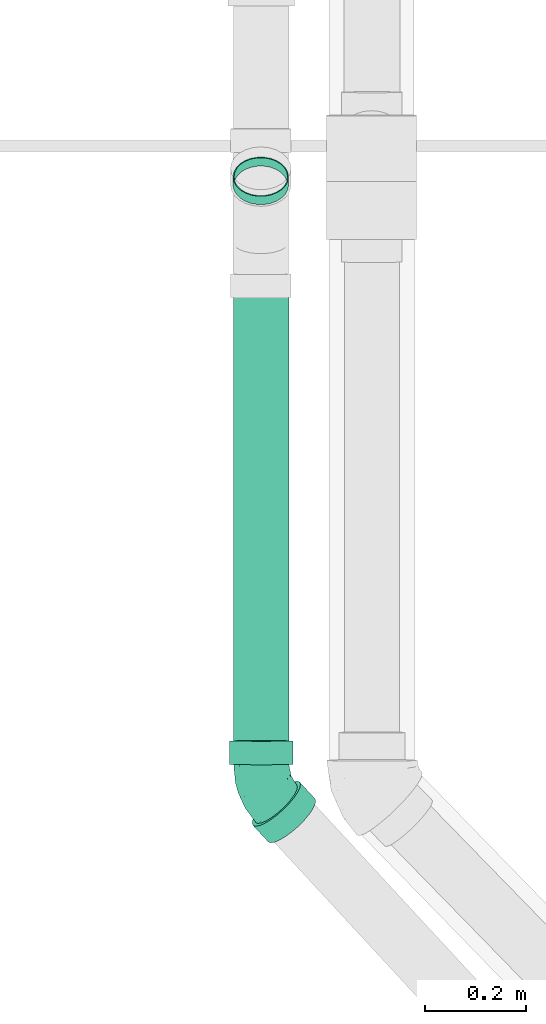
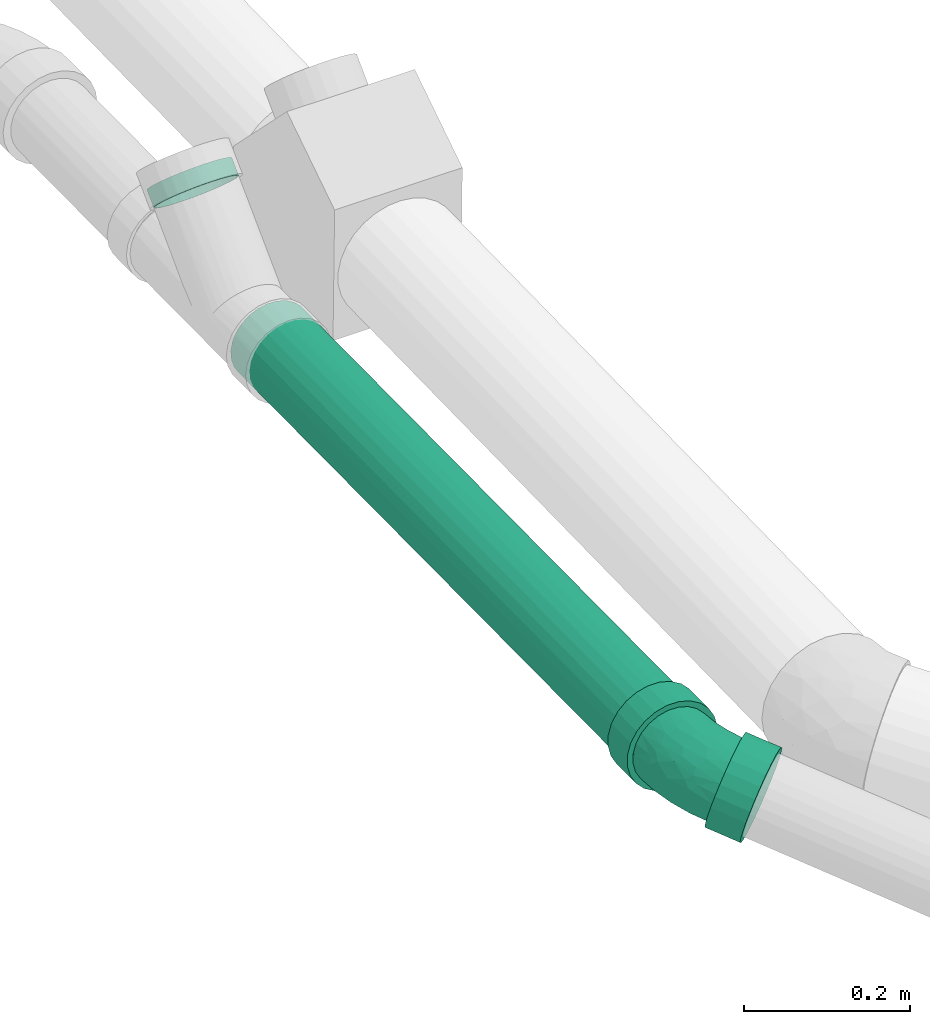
# One storey, part 32 of 78: 2 flow segments, 1 flow fitting.
"""IFC2X3 building model written with IfcOpenShell, lengths in millimetres."""

import ifcopenshell
import ifcopenshell.guid

model = None  # the IFC model being written
_history = None  # IfcOwnerHistory: only IFC2X3 demands one
_inside = {}  # id of a spatial element -> (the spatial element, [elements in it])
_under = {}  # id of a project, library or spatial element -> (it, [spatial elements below it])
_declared = {}  # id of a project -> (the project, [libraries it declares])
_typed = {}  # id of a type object -> (the type object, [elements of that type])
_made_of = {}  # id of a material, layer set ... -> (it, [elements and type objects made of it])


def new_model(schema):
    """Start an empty IFC model of exactly this schema.

    Asked for "IFC4X3", IfcOpenShell would pick the latest addendum, in which some entities
    have other attributes; the version numbers below select the first issue.
    IFC2X3 requires an IfcOwnerHistory on every rooted entity: one is made here for all.
    """
    global model, _history
    if schema == "IFC4X3":
        model = ifcopenshell.file(schema_version=(4, 3, 0, 0))
    else:
        model = ifcopenshell.file(schema=schema)
    _inside.clear()
    _under.clear()
    _declared.clear()
    _typed.clear()
    _made_of.clear()
    _history = None
    if model.schema == "IFC2X3":
        org = make("IfcOrganization", Name="unknown")
        user = make(
            "IfcPersonAndOrganization",
            ThePerson=make("IfcPerson", FamilyName="unknown"),
            TheOrganization=org,
        )
        app = make(
            "IfcApplication",
            ApplicationDeveloper=org,
            Version="unknown",
            ApplicationFullName="unknown",
            ApplicationIdentifier="unknown",
        )
        _history = make(
            "IfcOwnerHistory",
            OwningUser=user,
            OwningApplication=app,
            ChangeAction="ADDED",
            CreationDate=0,
        )
    return model


def make(cls, **values):
    """One entity of the class cls with the attributes given. An attribute that is None is left unset."""
    return model.create_entity(
        cls, **{name: value for name, value in values.items() if value is not None}
    )


def entity(cls, *values):
    """Any entity or typed value of the class cls, its attributes in the order of the schema. None: left unset."""
    e = model.create_entity(cls)
    for i, value in enumerate(values):
        if value is not None:
            e[i] = value
    return e


def rooted(cls, **values):
    """An entity with a GlobalId (a new one), such as an element, a storey or a relation."""
    return make(cls, GlobalId=ifcopenshell.guid.new(), OwnerHistory=_history, **values)


def si_unit(unit_type, name, prefix=None):
    """IfcSIUnit, for example si_unit("LENGTHUNIT", "METRE", prefix="MILLI")."""
    return make("IfcSIUnit", UnitType=unit_type, Prefix=prefix, Name=name)


def converted_unit(unit_type, name, factor, base, dimensions=None, offset=None):
    """IfcConversionBasedUnit, such as the inch: factor (a typed value) times the base unit."""
    return make(
        "IfcConversionBasedUnit"
        if offset is None
        else "IfcConversionBasedUnitWithOffset",
        ConversionOffset=offset,
        Dimensions=None
        if dimensions is None
        else entity("IfcDimensionalExponents", *dimensions),
        UnitType=unit_type,
        Name=name,
        ConversionFactor=make(
            "IfcMeasureWithUnit", ValueComponent=factor, UnitComponent=base
        ),
    )


def derived_unit(unit_type, elements):
    """IfcDerivedUnit: a product of units, each with its exponent."""
    return make(
        "IfcDerivedUnit",
        Elements=[
            make("IfcDerivedUnitElement", Unit=unit, Exponent=power)
            for unit, power in elements
        ],
        UnitType=unit_type,
    )


def assignment(units):
    """IfcUnitAssignment: the units of a project."""
    return None if units is None else make("IfcUnitAssignment", Units=units)


def point(xyz):
    """IfcCartesianPoint."""
    return None if xyz is None else make("IfcCartesianPoint", Coordinates=xyz)


def direction(xyz):
    """IfcDirection."""
    return None if xyz is None else make("IfcDirection", DirectionRatios=xyz)


def frame(location, z_axis=None, x_axis=None):
    """IfcAxis2Placement3D, a coordinate frame: its origin and axes. An axis left out is left unset."""
    return make(
        "IfcAxis2Placement3D",
        Location=point(location),
        Axis=direction(z_axis),
        RefDirection=direction(x_axis),
    )


def frame_2d(location, x_axis=None):
    """IfcAxis2Placement2D, a coordinate frame in the plane: its origin and x axis."""
    return make(
        "IfcAxis2Placement2D", Location=point(location), RefDirection=direction(x_axis)
    )


def origin_with_axes():
    """The frame at (0, 0, 0) with the z axis (0, 0, 1) and the x axis (1, 0, 0) written out."""
    return frame((0.0, 0.0, 0.0), z_axis=(0.0, 0.0, 1.0), x_axis=(1.0, 0.0, 0.0))


def origin_2d_with_axis():
    """The frame at (0, 0) in the plane with the x axis (1, 0) written out."""
    return frame_2d((0.0, 0.0), x_axis=(1.0, 0.0))


def place(relative_to, where):
    """IfcLocalPlacement: puts the frame where relative to a parent placement (None: the world)."""
    return make(
        "IfcLocalPlacement", PlacementRelTo=relative_to, RelativePlacement=where
    )


def context(
    kind, dimensions, precision=None, world=None, true_north=None, identifier=None
):
    """IfcGeometricRepresentationContext, for example the 3D "Model" context."""
    return make(
        "IfcGeometricRepresentationContext",
        ContextIdentifier=identifier,
        ContextType=kind,
        CoordinateSpaceDimension=dimensions,
        Precision=precision,
        WorldCoordinateSystem=world,
        TrueNorth=true_north,
    )


def subcontext(parent, identifier, kind, view, scale=None):
    """IfcGeometricRepresentationSubContext, for example "Body" below "Model"."""
    return make(
        "IfcGeometricRepresentationSubContext",
        ContextIdentifier=identifier,
        ContextType=kind,
        ParentContext=parent,
        TargetScale=scale,
        TargetView=view,
    )


def project(units=None, contexts=None):
    """IfcProject with its units and contexts."""
    return rooted(
        "IfcProject",
        Name="project",
        RepresentationContexts=contexts,
        UnitsInContext=assignment(units),
    )


def spatial(cls, under=None, at=None, **own):
    """A site, building, storey or space (cls), placed at a placement, below another one or the project."""
    s = rooted(cls, ObjectPlacement=at, **own)
    if under is not None:
        _under.setdefault(under.id(), (under, []))[1].append(s)
    return s


def profile(cls, at=None, kind="AREA", **sizes):
    """A parametric profile (cls). Its sizes go by their IFC names, for example OverallWidth=200.0."""
    return make(cls, ProfileType=kind, Position=at, **sizes)


def hollow_circle(**sizes):
    """IfcCircleHollowProfileDef."""
    return profile("IfcCircleHollowProfileDef", **sizes)


def extrude(swept, where, along, depth):
    """IfcExtrudedAreaSolid: the profile swept, set in the frame where, extruded along a direction by depth."""
    return make(
        "IfcExtrudedAreaSolid",
        SweptArea=swept,
        Position=where,
        ExtrudedDirection=direction(along),
        Depth=depth,
    )


def faces_of(points, faces, orient=None, outer=None):
    """IfcFace entities. A face is a list of loops; a loop is a list of indices into points, from 0.

    orient and outer hold one flag for each loop. By default every Orientation is true, the
    first loop of a face is its IfcFaceOuterBound and the others are IfcFaceBound.
    """
    made = []
    for i, loops in enumerate(faces):
        bounds = []
        for j, loop in enumerate(loops):
            is_outer = j == 0 if outer is None else outer[i][j]
            bounds.append(
                make(
                    "IfcFaceOuterBound" if is_outer else "IfcFaceBound",
                    Bound=make("IfcPolyLoop", Polygon=[points[k] for k in loop]),
                    Orientation=True if orient is None else orient[i][j],
                )
            )
        made.append(make("IfcFace", Bounds=bounds))
    return made


def open_shell(faces, orient=None, outer=None):
    """The faces of one IfcOpenShell. surface_model builds it on its shared points."""
    return ("IfcOpenShell", faces, orient, outer)


def surface_model(cls, points, shells):
    """IfcFaceBasedSurfaceModel or IfcShellBasedSurfaceModel (cls): surfaces that need not close."""
    shared = [point(p) for p in points]
    made = [make(c, CfsFaces=faces_of(shared, fs, o, b)) for c, fs, o, b in shells]
    if cls == "IfcFaceBasedSurfaceModel":
        return make(cls, FbsmFaces=made)
    return make(cls, SbsmBoundary=made)


def shape(context_of_items, identifier, shape_type, items):
    """IfcShapeRepresentation: the items that make up one representation, for example the "Body"."""
    return make(
        "IfcShapeRepresentation",
        ContextOfItems=context_of_items,
        RepresentationIdentifier=identifier,
        RepresentationType=shape_type,
        Items=items,
    )


def source(mapping_origin, context_of_items, identifier, shape_type, items):
    """IfcRepresentationMap: a shape defined once, which mapped items show again and again."""
    return make(
        "IfcRepresentationMap",
        MappingOrigin=mapping_origin,
        MappedRepresentation=shape(context_of_items, identifier, shape_type, items),
    )


def transform(
    local_origin,
    x_axis=None,
    y_axis=None,
    z_axis=None,
    scale=None,
    scale2=None,
    scale3=None,
    uniform=True,
):
    """IfcCartesianTransformationOperator3D, or its non-uniform kind. x_axis, y_axis, z_axis: its Axis1, 2, 3."""
    if uniform:
        return make(
            "IfcCartesianTransformationOperator3D",
            Axis1=direction(x_axis),
            Axis2=direction(y_axis),
            LocalOrigin=point(local_origin),
            Scale=scale,
            Axis3=direction(z_axis),
        )
    return make(
        "IfcCartesianTransformationOperator3DnonUniform",
        Axis1=direction(x_axis),
        Axis2=direction(y_axis),
        LocalOrigin=point(local_origin),
        Scale=scale,
        Axis3=direction(z_axis),
        Scale2=scale2,
        Scale3=scale3,
    )


def mapped(mapping_source, mapping_target):
    """IfcMappedItem: shows the shape of a source again, moved by a transform."""
    return make(
        "IfcMappedItem", MappingSource=mapping_source, MappingTarget=mapping_target
    )


def made_of(thing, what):
    """Note that an element or type object is made of a material, layer set ...; save() writes the relation."""
    if what is not None:
        _made_of.setdefault(what.id(), (what, []))[1].append(thing)
    return thing


def type_object(cls, material=None, **own):
    """A type object (cls), such as IfcWallType, which elements share."""
    return made_of(rooted(cls, **own), material)


def element(
    cls,
    number,
    at=None,
    inside=None,
    cuts=None,
    type_object=None,
    material=None,
    context=None,
    identifier="Body",
    shape_type=None,
    held_by="IfcProductDefinitionShape",
    body=None,
    shapes=None,
    **own,
):
    """One element of the class cls, such as IfcWall. Its Tag is "e" and its number.

    at: its placement. inside: the storey or other place that contains it. cuts: it is an
    opening in that element (IfcRelVoidsElement). A single representation is given by context,
    identifier, shape_type and body (its items); several are given by shapes. held_by: the class
    of the entity that holds the representations. save() writes the other relations.
    """
    e = rooted(cls, Tag="e%d" % number, ObjectPlacement=at, **own)
    if body is not None:
        shapes = [shape(context, identifier, shape_type, body)]
    if shapes is not None:
        e.Representation = make(held_by, Representations=shapes)
    if inside is not None:
        _inside.setdefault(inside.id(), (inside, []))[1].append(e)
    if cuts is not None:
        rooted(
            "IfcRelVoidsElement", RelatingBuildingElement=cuts, RelatedOpeningElement=e
        )
    if type_object is not None:
        _typed.setdefault(type_object.id(), (type_object, []))[1].append(e)
    return made_of(e, material)


def aggregate(whole, parts):
    """IfcRelAggregates: a whole, such as a stair, and the parts it consists of."""
    return rooted("IfcRelAggregates", RelatingObject=whole, RelatedObjects=parts)


def save(model, path):
    """Write the relations noted so far, then the file.

    IfcRelAggregates (storeys below a building ...), IfcRelContainedInSpatialStructure (elements
    in a storey), IfcRelDefinesByType, IfcRelAssociatesMaterial and IfcRelDeclares: one each for
    every whole, place, type object, material and project.
    """
    for whole, parts in _under.values():
        aggregate(whole, parts)
    for where, things in _inside.values():
        rooted(
            "IfcRelContainedInSpatialStructure",
            RelatedElements=things,
            RelatingStructure=where,
        )
    for kind, things in _typed.values():
        rooted("IfcRelDefinesByType", RelatedObjects=things, RelatingType=kind)
    for what, things in _made_of.values():
        rooted("IfcRelAssociatesMaterial", RelatedObjects=things, RelatingMaterial=what)
    for by, libraries in _declared.values():
        rooted("IfcRelDeclares", RelatingContext=by, RelatedDefinitions=libraries)
    model.write(path)


model = new_model("IFC2X3")

# Units and contexts
model_context = context("Model", 3, precision=0.01, world=frame((0.0, 4.29681676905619e-09, 0.0)), true_north=direction((4.01073788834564e-13, 1.0)))
plan_context = context("Plan", 3, precision=0.01, world=frame((0.0, 4.29681676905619e-09, 0.0)), true_north=direction((4.01073788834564e-13, 1.0)))
body_context = subcontext(model_context, "Body", "Model", "MODEL_VIEW")
ifc_project = project(units=[converted_unit("PLANEANGLEUNIT", "DEGREE", entity("IfcPositiveLengthMeasure", 0.0174532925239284), si_unit("PLANEANGLEUNIT", "RADIAN"), dimensions=[0, 0, 0, 0, 0, 0, 0]), si_unit("AREAUNIT", "SQUARE_METRE"), si_unit("LENGTHUNIT", "METRE", prefix="MILLI"), si_unit("MASSUNIT", "GRAM", prefix="KILO"), si_unit("POWERUNIT", "WATT"), si_unit("PRESSUREUNIT", "PASCAL"), si_unit("FORCEUNIT", "NEWTON", prefix="KILO"), si_unit("ELECTRICVOLTAGEUNIT", "VOLT"), si_unit("ELECTRICCURRENTUNIT", "AMPERE"), si_unit("THERMODYNAMICTEMPERATUREUNIT", "DEGREE_CELSIUS"), si_unit("TIMEUNIT", "SECOND"), si_unit("VOLUMEUNIT", "CUBIC_METRE"), derived_unit("LINEARVELOCITYUNIT", [(si_unit("LENGTHUNIT", "METRE"), 1), (si_unit("TIMEUNIT", "SECOND"), -1)]), derived_unit("VOLUMETRICFLOWRATEUNIT", [(si_unit("VOLUMEUNIT", "CUBIC_METRE"), 1), (si_unit("TIMEUNIT", "SECOND"), -1)]), derived_unit("THERMALTRANSMITTANCEUNIT", [(si_unit("POWERUNIT", "WATT"), 1), (si_unit("THERMODYNAMICTEMPERATUREUNIT", "KELVIN"), -1), (si_unit("AREAUNIT", "SQUARE_METRE"), -1)]), derived_unit("SOUNDPRESSUREUNIT", [(si_unit("PRESSUREUNIT", "PASCAL"), 1)])], contexts=[model_context, plan_context])

# Site, building, storey
site_placement = place(None, frame((0.0, -4.29681676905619e-09, 0.0), z_axis=(0.0, 0.0, 1.0), x_axis=(1.0, 0.0, 0.0)))
site = spatial("IfcSite", under=ifc_project, at=site_placement, Name="ENGM", CompositionType="ELEMENT")
building_placement = place(site_placement, frame((0.0, 4.29681676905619e-09, 0.0), z_axis=(0.0, 0.0, 1.0), x_axis=(1.0, 0.0, 0.0)))
building = spatial("IfcBuilding", under=site, at=building_placement, Name="TH", CompositionType="ELEMENT")
storey_placement = place(building_placement, frame((0.0, 0.0, 205200.0), z_axis=(0.0, 0.0, 1.0), x_axis=(1.0, 0.0, 0.0)))
storey = spatial("IfcBuildingStorey", under=building, at=storey_placement, Name="Nivå D + 1,2 m", CompositionType="ELEMENT", Elevation=205200.0)

# Flow fitting
pipe_fitting_type = type_object("IfcPipeFittingType", Name="magi_sewer_bend_NOR", PredefinedType="BEND")
shared_shape_1 = source(origin_with_axes(), body_context, "Body", "SurfaceModel", [
    surface_model("IfcShellBasedSurfaceModel", [(-45.56349, 27.5, -47.63139), (-45.56349, 14.23505, -53.12592), (-45.56349, 0.0, -55.0), (-45.56349, 53.12592, -14.23505), (-45.56349, 47.63139, -27.5), (-45.56349, 38.89087, -38.89087), (-45.56349, -14.23505, -53.12592), (-45.56349, -27.5, -47.63139), (-45.56349, -38.89087, -38.89087), (-45.56349, -47.63139, -27.5), (-45.56349, -53.12592, -14.23505), (-45.56349, 27.5, 47.63139), (-45.56349, 38.89087, 38.89087), (-45.56349, 0.0, 55.0), (-45.56349, 47.63139, 27.5), (-45.56349, 14.23505, 53.12592), (-45.56349, -38.89087, 38.89087), (-45.56349, -27.5, 47.63139), (-45.56349, -47.63139, 27.5), (-45.56349, -14.23505, 53.12592), (-45.56349, 55.0, 0.0), (-45.56349, 53.12592, 14.23505), (32.21825, 32.21825, -55.0), (22.15256, 42.28395, -53.12592), (12.77282, 51.66369, -47.63139), (-1.46223, 65.89874, -27.5), (4.71825, 59.71825, -38.89087), (4.71825, 59.71825, 38.89087), (-5.34744, 69.78395, 14.23505), (-1.46223, 65.89874, 27.5), (12.77282, 51.66369, 47.63139), (22.15256, 42.28395, 53.12592), (32.21825, 32.21825, 55.0), (51.66369, 12.77282, 47.63139), (42.28395, 22.15255, 53.12592), (14.00816, -33.8187, 30.64983), (-12.1679, -31.08474, 42.44015), (-17.76016, -42.06458, 32.20462), (-18.37655, -51.42077, 0.0), (-2.85835, -49.37776, 0.0), (-11.7394, -50.6705, 9.39178), (65.89874, -1.46223, 27.5), (59.71825, 4.71825, 38.89087), (42.30248, -17.18582, 32.20462), (-21.79307, -20.16804, 50.26718), (5.64727, -13.63371, 49.57419), (1.63253, 33.06484, 51.33467), (9.94272, 26.03453, 54.20004), (-16.41504, -5.29554, 54.27135), (-5.23125, 12.62935, 54.80673), (-27.55752, 7.62142, 54.66623), (-15.62286, 37.71692, 44.9023), (-24.25485, 46.12561, 34.7087), (29.67099, 1.14907, 50.26718), (-21.13274, 22.887, 51.41725), (-45.56349, -53.12592, 14.23505), (21.22552, -35.99679, 21.67592), (-9.86168, -47.58333, 19.10009), (17.0761, -41.22536, 11.95428), (-22.65753, 54.70011, 22.59637), (69.78395, -5.34745, 14.23505), (44.13046, -27.52845, 9.39178), (49.35416, -23.36579, 0.0), (-22.02994, 58.93405, 11.55615), (40.61976, -26.67324, 19.10009), (15.3517, 7.86267, 54.27135), (30.58423, -13.37623, 42.44015), (-24.5159, 59.18663, 0.0), (-6.67262, 71.10913, 0.0), (9.23164, -22.28715, 43.85945), (-45.56349, -55.0, 0.0), (17.03908, -41.13598, 0.0), (36.93651, -32.89419, 0.0), (71.10913, -6.67262, 0.0), (-16.41504, -5.29554, -54.27135), (-11.7394, -50.6705, -9.39178), (17.0761, -41.22536, -11.95428), (42.28395, 22.15255, -53.12592), (15.3517, 7.86267, -54.27135), (-24.53474, 22.22599, -51.33467), (-25.43976, 11.37863, -54.20004), (-15.46497, 49.7665, -34.7087), (51.66369, 12.77282, -47.63139), (59.71825, 4.71825, -38.89087), (30.58423, -13.37623, -42.44015), (-22.65753, 54.70011, -22.59637), (65.89874, -1.46223, -27.5), (69.78395, -5.34745, -14.23505), (40.61976, -26.67324, -19.10009), (-26.09515, 57.25018, -11.55615), (-1.24046, 31.12666, -51.41725), (-9.86168, -47.58333, -19.10009), (-15.62286, 37.71692, -44.9023), (-17.76016, -42.06458, -32.20462), (-12.1679, -31.08474, -42.44015), (9.23164, -22.28715, -43.85945), (14.00816, -33.8187, -30.64983), (-21.79307, -20.16804, -50.26718), (29.67099, 1.14907, -50.26718), (-5.34744, 69.78395, -14.23505), (5.64727, -13.63371, -49.57419), (44.13046, -27.52845, -9.39178), (14.09695, 24.87527, -54.66623), (10.44486, -40.46228, -21.67591), (42.30248, -17.18582, -32.20462), (-5.23125, 12.62935, -54.80673), (-92.06349, -31.5, -54.5596), (-92.06349, 31.5, -54.5596), (-92.06349, -16.3056, -60.85333), (-92.06349, -60.85333, -16.3056), (-92.06349, -44.54773, -44.54773), (-92.06349, -54.5596, -31.5), (-92.06349, 63.0, 0.0), (-92.06349, 54.5596, -31.5), (-92.06349, 0.0, -63.0), (-92.06349, 16.3056, -60.85333), (-92.06349, 44.54773, -44.54773), (-92.06349, 60.85333, -16.3056), (-92.06349, -63.0, 0.0), (-92.06349, -60.85333, 16.3056), (-92.06349, -54.5596, 31.5), (-92.06349, -44.54773, 44.54773), (-92.06349, 54.5596, 31.5), (-92.06349, -31.5, 54.5596), (-92.06349, -16.3056, 60.85333), (-92.06349, 0.0, 63.0), (-92.06349, 60.85333, 16.3056), (-92.06349, 31.5, 54.5596), (-92.06349, 44.54773, 44.54773), (-92.06349, 16.3056, 60.85333), (-45.56349, 0.0, 63.0), (-45.56349, -16.3056, 60.85333), (-45.56349, -31.5, 54.5596), (-45.56349, -44.54773, 44.54773), (-45.56349, -54.5596, 31.5), (-45.56349, -60.85333, 16.3056), (-45.56349, 54.5596, 31.5), (-45.56349, -63.0, 0.0), (-45.56349, 31.5, 54.5596), (-45.56349, 44.54773, 44.54773), (-45.56349, 16.3056, 60.85333), (-45.56349, 63.0, 0.0), (-45.56349, 60.85333, 16.3056), (-45.56349, 54.5596, -31.5), (-45.56349, -60.85333, -16.3056), (-45.56349, -44.54773, -44.54773), (-45.56349, -54.5596, -31.5), (-45.56349, -31.5, -54.5596), (-45.56349, 31.5, -54.5596), (-45.56349, -16.3056, -60.85333), (-45.56349, 0.0, -63.0), (-45.56349, 44.54773, -44.54773), (-45.56349, 60.85333, -16.3056), (-45.56349, 16.3056, -60.85333), (26.51926, 103.67818, 31.5), (20.55099, 109.64645, 0.0), (22.06892, 108.12852, 16.3056), (42.82486, 87.37258, 54.5596), (33.59872, 96.59872, 44.54773), (26.51926, 103.67818, -31.5), (53.56892, 76.62852, 60.85333), (42.82486, 87.37258, -54.5596), (65.09872, 65.09872, 63.0), (22.06892, 108.12852, -16.3056), (33.59872, 96.59872, -44.54773), (65.09872, 65.09872, -63.0), (53.56892, 76.62852, -60.85333), (96.59872, 33.59872, 44.54773), (76.62852, 53.56892, 60.85333), (87.37258, 42.82486, 54.5596), (87.37258, 42.82486, -54.5596), (103.67818, 26.51926, 31.5), (108.12852, 22.06892, 16.3056), (109.64645, 20.55099, 0.0), (103.67818, 26.51926, -31.5), (76.62852, 53.56892, -60.85333), (96.59872, 33.59872, -44.54773), (108.12852, 22.06892, -16.3056), (76.76598, -12.32947, 0.0), (75.24806, -10.81155, 16.3056), (70.79772, -6.36121, 31.5), (54.49212, 9.94439, -54.5596), (63.71825, 0.71825, 44.54773), (54.49212, 9.94439, 54.5596), (43.74806, 20.68845, 60.85333), (32.21826, 32.21826, 63.0), (70.79772, -6.36121, -31.5), (63.71825, 0.71825, -44.54773), (75.24806, -10.81155, -16.3056), (32.21826, 32.21826, -63.0), (43.74806, 20.68845, -60.85333), (9.94439, 54.49212, -54.5596), (20.68845, 43.74806, 60.85333), (-6.36121, 70.79772, -31.5), (-6.36121, 70.79772, 31.5), (9.94439, 54.49212, 54.5596), (0.71825, 63.71825, 44.54773), (-12.32947, 76.76598, 0.0), (-10.81155, 75.24806, 16.3056), (0.71825, 63.71825, -44.54773), (20.68845, 43.74806, -60.85333), (-10.81155, 75.24806, -16.3056)], [open_shell([[[0, 1, 2]], [[0, 3, 4]], [[5, 0, 4]], [[6, 7, 2]], [[7, 8, 2]], [[9, 10, 8]], [[11, 12, 13]], [[13, 12, 14]], [[15, 11, 13]], [[16, 17, 18]], [[19, 13, 17]], [[14, 17, 13]], [[20, 3, 21]], [[22, 23, 24]], [[25, 24, 26]], [[27, 28, 29]], [[27, 30, 31]], [[32, 27, 31]], [[33, 32, 34]], [[35, 36, 37]], [[38, 39, 40]], [[17, 16, 36]], [[41, 42, 43]], [[44, 36, 45]], [[37, 36, 16]], [[31, 46, 47]], [[19, 17, 44]], [[48, 49, 50]], [[13, 19, 48]], [[12, 51, 52]], [[33, 34, 53]], [[50, 15, 13]], [[11, 54, 51]], [[55, 38, 40]], [[30, 27, 51]], [[56, 57, 58]], [[51, 12, 11]], [[16, 18, 37]], [[14, 52, 59]], [[21, 14, 59]], [[60, 61, 62]], [[63, 20, 21]], [[64, 56, 58]], [[57, 40, 58]], [[11, 15, 54]], [[32, 47, 65]], [[42, 33, 66]], [[29, 28, 59]], [[65, 34, 32]], [[35, 37, 57]], [[42, 66, 43]], [[49, 47, 46]], [[66, 33, 53]], [[18, 57, 37]], [[61, 60, 64]], [[35, 43, 66]], [[50, 54, 15]], [[35, 56, 43]], [[21, 59, 63]], [[18, 55, 57]], [[67, 63, 68]], [[36, 69, 45]], [[28, 63, 59]], [[45, 65, 48]], [[29, 59, 52]], [[45, 53, 65]], [[29, 52, 27]], [[49, 48, 65]], [[31, 30, 46]], [[46, 51, 54]], [[44, 48, 19]], [[14, 12, 52]], [[64, 60, 41]], [[64, 41, 43]], [[69, 35, 66]], [[27, 52, 51]], [[51, 46, 30]], [[49, 46, 54]], [[36, 44, 17]], [[48, 44, 45]], [[65, 53, 34]], [[66, 53, 45]], [[55, 70, 38]], [[58, 39, 71]], [[55, 40, 57]], [[39, 58, 40]], [[61, 58, 72]], [[62, 61, 72]], [[62, 73, 60]], [[58, 61, 64]], [[65, 47, 49]], [[32, 31, 47]], [[48, 50, 13]], [[54, 50, 49]], [[35, 69, 36]], [[66, 45, 69]], [[68, 63, 28]], [[63, 67, 20]], [[43, 56, 64]], [[57, 56, 35]], [[72, 58, 71]], [[6, 2, 74]], [[39, 75, 76]], [[22, 77, 78]], [[79, 80, 1]], [[4, 81, 5]], [[82, 83, 84]], [[85, 81, 4]], [[86, 87, 88]], [[3, 89, 85]], [[24, 23, 90]], [[10, 75, 38]], [[0, 79, 1]], [[75, 10, 91]], [[26, 92, 81]], [[91, 9, 93]], [[93, 8, 94]], [[8, 7, 94]], [[95, 96, 94]], [[10, 9, 91]], [[8, 93, 9]], [[97, 7, 6]], [[98, 78, 77]], [[99, 25, 85]], [[100, 97, 74]], [[20, 67, 89]], [[96, 93, 94]], [[68, 99, 89]], [[100, 74, 78]], [[26, 24, 92]], [[85, 4, 3]], [[25, 81, 85]], [[97, 94, 7]], [[90, 92, 24]], [[80, 74, 2]], [[92, 90, 79]], [[5, 92, 0]], [[87, 62, 101]], [[102, 23, 22]], [[98, 77, 82]], [[103, 88, 76]], [[83, 104, 84]], [[100, 98, 84]], [[83, 86, 104]], [[105, 102, 78]], [[104, 96, 84]], [[105, 78, 74]], [[101, 62, 72]], [[102, 90, 23]], [[105, 80, 79]], [[75, 91, 76]], [[96, 103, 93]], [[84, 95, 100]], [[86, 88, 104]], [[99, 85, 89]], [[96, 104, 88]], [[25, 26, 81]], [[5, 81, 92]], [[92, 79, 0]], [[105, 79, 90]], [[74, 97, 6]], [[94, 97, 100]], [[84, 98, 82]], [[78, 98, 100]], [[38, 75, 39]], [[38, 70, 10]], [[103, 76, 91]], [[101, 76, 88]], [[76, 72, 71]], [[87, 73, 62]], [[76, 101, 72]], [[87, 101, 88]], [[74, 80, 105]], [[2, 1, 80]], [[78, 102, 22]], [[90, 102, 105]], [[96, 95, 84]], [[94, 100, 95]], [[20, 89, 3]], [[89, 67, 68]], [[93, 103, 91]], [[88, 103, 96]], [[39, 76, 71]], [[106, 107, 108]], [[109, 106, 110]], [[107, 106, 109]], [[109, 110, 111]], [[112, 113, 109]], [[114, 107, 115]], [[114, 108, 107]], [[107, 113, 116]], [[109, 113, 107]], [[113, 112, 117]], [[112, 109, 118]], [[119, 120, 121]], [[118, 121, 122]], [[123, 124, 125]], [[123, 125, 121]], [[122, 121, 125]], [[112, 122, 126]], [[118, 122, 112]], [[122, 127, 128]], [[125, 127, 122]], [[125, 129, 127]], [[118, 119, 121]], [[130, 131, 132]], [[130, 132, 133]], [[133, 134, 135]], [[130, 133, 136]], [[133, 137, 136]], [[138, 136, 139]], [[138, 140, 130]], [[136, 141, 142]], [[136, 138, 130]], [[143, 141, 136]], [[133, 135, 137]], [[144, 143, 137]], [[145, 144, 146]], [[144, 147, 148]], [[147, 144, 145]], [[149, 150, 147]], [[143, 148, 151]], [[152, 141, 143]], [[148, 150, 153]], [[148, 143, 144]], [[150, 148, 147]], [[143, 136, 137]], [[152, 117, 141]], [[143, 113, 152]], [[107, 151, 148]], [[143, 151, 116]], [[115, 148, 153]], [[152, 113, 117]], [[117, 112, 141]], [[115, 107, 148]], [[116, 151, 107]], [[116, 113, 143]], [[114, 115, 153]], [[153, 150, 114]], [[106, 147, 145]], [[111, 146, 144]], [[145, 146, 110]], [[137, 109, 144]], [[147, 108, 149]], [[147, 106, 108]], [[108, 114, 149]], [[145, 110, 106]], [[146, 111, 110]], [[109, 111, 144]], [[137, 118, 109]], [[149, 114, 150]], [[135, 119, 137]], [[134, 120, 135]], [[123, 133, 132]], [[134, 133, 121]], [[124, 132, 131]], [[135, 120, 119]], [[119, 118, 137]], [[124, 123, 132]], [[121, 133, 123]], [[121, 120, 134]], [[125, 124, 131]], [[131, 130, 125]], [[129, 140, 138]], [[139, 127, 138]], [[122, 136, 142]], [[139, 136, 128]], [[126, 142, 141]], [[140, 129, 130]], [[138, 127, 129]], [[130, 129, 125]], [[139, 128, 127]], [[136, 122, 128]], [[126, 122, 142]], [[141, 112, 126]], [[154, 155, 156]], [[157, 154, 158]], [[159, 154, 160]], [[160, 154, 157]], [[161, 160, 162]], [[155, 159, 163]], [[155, 154, 159]], [[159, 161, 164]], [[160, 161, 159]], [[161, 165, 166]], [[161, 162, 167]], [[168, 169, 167]], [[161, 167, 170]], [[171, 172, 173]], [[171, 173, 167]], [[174, 167, 173]], [[165, 170, 175]], [[161, 170, 165]], [[170, 174, 176]], [[170, 167, 174]], [[177, 174, 173]], [[162, 168, 167]], [[178, 179, 180]], [[181, 178, 180]], [[182, 183, 184]], [[180, 182, 181]], [[181, 182, 185]], [[186, 181, 187]], [[186, 188, 178]], [[181, 189, 190]], [[186, 178, 181]], [[181, 191, 189]], [[182, 184, 185]], [[192, 193, 185]], [[194, 192, 195]], [[193, 192, 194]], [[194, 195, 196]], [[197, 194, 198]], [[191, 193, 199]], [[200, 189, 191]], [[193, 197, 201]], [[193, 191, 185]], [[197, 193, 194]], [[191, 181, 185]], [[200, 166, 189]], [[191, 161, 200]], [[159, 199, 193]], [[191, 199, 164]], [[163, 193, 201]], [[200, 161, 166]], [[166, 165, 189]], [[163, 159, 193]], [[164, 199, 159]], [[164, 161, 191]], [[155, 163, 201]], [[201, 197, 155]], [[154, 194, 196]], [[157, 195, 192]], [[196, 195, 158]], [[185, 160, 192]], [[194, 156, 198]], [[194, 154, 156]], [[156, 155, 198]], [[196, 158, 154]], [[195, 157, 158]], [[160, 157, 192]], [[185, 162, 160]], [[198, 155, 197]], [[184, 168, 185]], [[183, 169, 184]], [[171, 182, 180]], [[183, 182, 167]], [[172, 180, 179]], [[184, 169, 168]], [[168, 162, 185]], [[172, 171, 180]], [[167, 182, 171]], [[167, 169, 183]], [[173, 172, 179]], [[179, 178, 173]], [[177, 188, 186]], [[187, 174, 186]], [[170, 181, 190]], [[187, 181, 176]], [[175, 190, 189]], [[188, 177, 178]], [[186, 174, 177]], [[178, 177, 173]], [[187, 176, 174]], [[181, 170, 176]], [[175, 170, 190]], [[189, 165, 175]], [[0, 2, 8]], [[0, 10, 14]], [[8, 10, 0]], [[70, 55, 10]], [[3, 0, 21]], [[14, 21, 0]], [[10, 17, 14]], [[18, 10, 55]], [[17, 10, 18]], [[22, 24, 25]], [[25, 99, 22]], [[22, 99, 87]], [[82, 86, 83]], [[82, 77, 22]], [[82, 87, 86]], [[22, 87, 82]], [[87, 60, 73]], [[87, 99, 68]], [[27, 68, 28]], [[68, 27, 32]], [[41, 33, 42]], [[60, 87, 41]], [[41, 87, 33]], [[32, 33, 68]], [[87, 68, 33]]])]),
])
flow_fitting_placement = place(storey_placement, frame((903101.94833, 480747.75523, 4342.84219), z_axis=(0.391234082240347, -0.00920200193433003, 0.920245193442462), x_axis=(3.56062212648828e-07, -0.99995000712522, -0.00999916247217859)))
element("IfcFlowFitting", 1, at=flow_fitting_placement, inside=storey, type_object=pipe_fitting_type, Name="magi_sewer_bend_NOR", context=body_context, shape_type="MappedRepresentation", body=[
    mapped(shared_shape_1, transform((0.0, 0.0, 0.0), scale=1.0)),
])

# Flow segments
pipe_segment_type = type_object("IfcPipeSegmentType", Name="MA", PredefinedType="RIGIDSEGMENT")
shared_shape_2 = source(origin_with_axes(), body_context, "Body", "SweptSolid", [
    extrude(hollow_circle(Radius=55.0, WallThickness=2.0, at=origin_2d_with_axis()), frame((0.0, 0.0, 0.0), z_axis=(1.0, 0.0, 0.0), x_axis=(0.0, 1.0, 0.0)), (0.0, 0.0, 1.0), 23.2),
])
flow_segment_1_placement = place(storey_placement, frame((903100.98771, 481939.83649, 4464.21186000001), z_axis=(0.0, -0.707106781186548, 0.707106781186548), x_axis=(0.0, 0.707106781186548, 0.707106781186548)))
element("IfcFlowSegment", 2, at=flow_segment_1_placement, inside=storey, type_object=pipe_segment_type, Name="MA", context=body_context, shape_type="MappedRepresentation", body=[
    mapped(shared_shape_2, transform((0.0, 0.0, 0.0), scale=1.0)),
])
shared_shape_3 = source(origin_with_axes(), body_context, "Body", "SweptSolid", [
    extrude(hollow_circle(Radius=55.0, WallThickness=2.0, at=origin_2d_with_axis()), frame((0.0, 0.0, 0.0), z_axis=(1.0, 0.0, 0.0), x_axis=(0.0, 1.0, 0.0)), (0.0, 0.0, 1.0), 970.1),
])
flow_segment_2_placement = place(storey_placement, frame((903101.94833, 481763.40373, 4352.99867999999), z_axis=(-0.920290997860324, -0.0039119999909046, 0.391214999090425), x_axis=(-3.18052567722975e-07, -0.999950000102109, -0.0099998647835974)))
element("IfcFlowSegment", 3, at=flow_segment_2_placement, inside=storey, type_object=pipe_segment_type, Name="MA", context=body_context, shape_type="MappedRepresentation", body=[
    mapped(shared_shape_3, transform((0.0, 0.0, 0.0), scale=1.0)),
])

save(model, "model.ifc")
